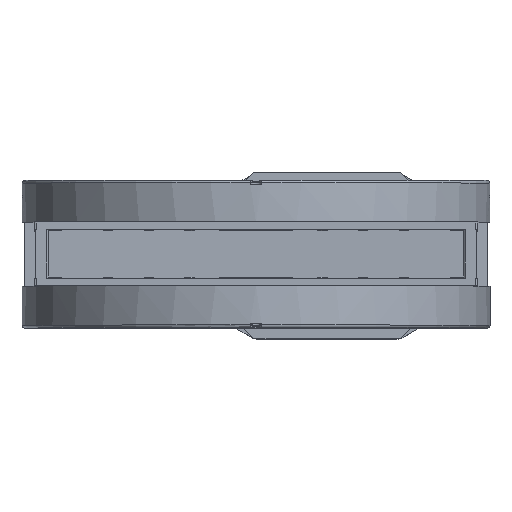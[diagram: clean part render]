
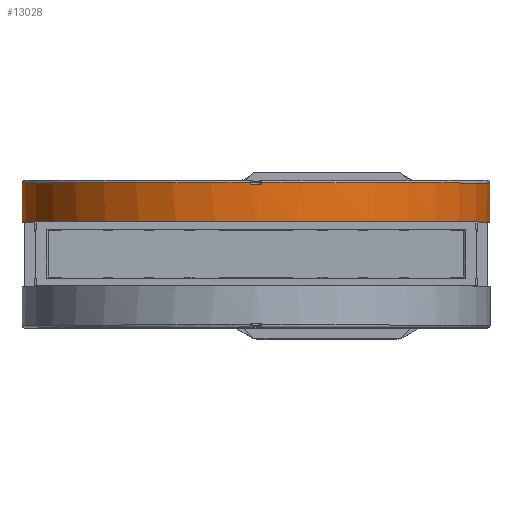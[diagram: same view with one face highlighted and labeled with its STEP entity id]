
A CAD part, top view. The second image highlights one B-rep face of the part: STEP entity #13028.
In plain terms, the highlighted cylindrical face has radius 126.6 mm (diameter 253.2 mm), a full revolution.
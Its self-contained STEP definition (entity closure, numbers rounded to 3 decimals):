
#5848=LINE('',#47086,#8254);
#5849=LINE('',#47091,#8255);
#5850=LINE('',#47095,#8256);
#5851=LINE('',#47099,#8257);
#8254=VECTOR('',#36871,1.);
#8255=VECTOR('',#36874,1.);
#8256=VECTOR('',#36877,1.);
#8257=VECTOR('',#36880,1.);
#9873=ELLIPSE('',#32602,223.466,126.6);
#9874=ELLIPSE('',#32603,223.466,126.6);
#9875=ELLIPSE('',#32610,223.466,126.6);
#9876=ELLIPSE('',#32611,223.466,126.6);
#13028=ADVANCED_FACE('BCT_REF_61925',(#14757,#14758,#14759,#14760),#13953,
 .T.);
#13953=CYLINDRICAL_SURFACE('',#32613,126.6);
#14757=FACE_BOUND('',#16295,.T.);
#14758=FACE_BOUND('',#16296,.T.);
#14759=FACE_BOUND('',#16297,.T.);
#14760=FACE_BOUND('',#16298,.T.);
#16295=EDGE_LOOP('',(#20443,#20444,#20445));
#16296=EDGE_LOOP('',(#20446,#20447,#20448,#20449,#20450,#20451,#20452,#20453));
#16297=EDGE_LOOP('',(#20454));
#16298=EDGE_LOOP('',(#20455,#20456,#20457));
#20443=ORIENTED_EDGE('',*,*,#28656,.T.);
#20444=ORIENTED_EDGE('',*,*,#28657,.T.);
#20445=ORIENTED_EDGE('',*,*,#28658,.T.);
#20446=ORIENTED_EDGE('',*,*,#28659,.T.);
#20447=ORIENTED_EDGE('',*,*,#28660,.T.);
#20448=ORIENTED_EDGE('',*,*,#28661,.F.);
#20449=ORIENTED_EDGE('',*,*,#28662,.F.);
#20450=ORIENTED_EDGE('',*,*,#28663,.T.);
#20451=ORIENTED_EDGE('',*,*,#28664,.T.);
#20452=ORIENTED_EDGE('',*,*,#28665,.F.);
#20453=ORIENTED_EDGE('',*,*,#28666,.T.);
#20454=ORIENTED_EDGE('',*,*,#28667,.T.);
#20455=ORIENTED_EDGE('',*,*,#28668,.F.);
#20456=ORIENTED_EDGE('',*,*,#28669,.F.);
#20457=ORIENTED_EDGE('',*,*,#28670,.F.);
#25622=VERTEX_POINT('',#47081);
#25623=VERTEX_POINT('',#47082);
#25624=VERTEX_POINT('',#47084);
#25625=VERTEX_POINT('',#47087);
#25626=VERTEX_POINT('',#47088);
#25627=VERTEX_POINT('',#47090);
#25628=VERTEX_POINT('',#47092);
#25629=VERTEX_POINT('',#47094);
#25630=VERTEX_POINT('',#47096);
#25631=VERTEX_POINT('',#47098);
#25632=VERTEX_POINT('',#47100);
#25633=VERTEX_POINT('',#47103);
#25634=VERTEX_POINT('',#47105);
#25635=VERTEX_POINT('',#47106);
#25636=VERTEX_POINT('',#47108);
#28656=EDGE_CURVE('',#25622,#25623,#9873,.T.);
#28657=EDGE_CURVE('',#25623,#25624,#9874,.T.);
#28658=EDGE_CURVE('',#25624,#25622,#31133,.T.);
#28659=EDGE_CURVE('',#25625,#25626,#5848,.T.);
#28660=EDGE_CURVE('',#25626,#25627,#31134,.T.);
#28661=EDGE_CURVE('',#25628,#25627,#5849,.T.);
#28662=EDGE_CURVE('',#25629,#25628,#31135,.T.);
#28663=EDGE_CURVE('',#25629,#25630,#5850,.T.);
#28664=EDGE_CURVE('',#25630,#25631,#31136,.T.);
#28665=EDGE_CURVE('',#25632,#25631,#5851,.T.);
#28666=EDGE_CURVE('',#25632,#25625,#31137,.T.);
#28667=EDGE_CURVE('',#25633,#25633,#31138,.T.);
#28668=EDGE_CURVE('',#25634,#25635,#9875,.T.);
#28669=EDGE_CURVE('',#25636,#25634,#9876,.T.);
#28670=EDGE_CURVE('',#25635,#25636,#31139,.T.);
#31133=CIRCLE('',#32604,126.6);
#31134=CIRCLE('',#32605,126.6);
#31135=CIRCLE('',#32606,126.6);
#31136=CIRCLE('',#32607,126.6);
#31137=CIRCLE('',#32608,126.6);
#31138=CIRCLE('',#32609,126.6);
#31139=CIRCLE('',#32612,126.6);
#32602=AXIS2_PLACEMENT_3D('',#47080,#36865,#36866);
#32603=AXIS2_PLACEMENT_3D('',#47083,#36867,#36868);
#32604=AXIS2_PLACEMENT_3D('',#47085,#36869,#36870);
#32605=AXIS2_PLACEMENT_3D('',#47089,#36872,#36873);
#32606=AXIS2_PLACEMENT_3D('',#47093,#36875,#36876);
#32607=AXIS2_PLACEMENT_3D('',#47097,#36878,#36879);
#32608=AXIS2_PLACEMENT_3D('',#47101,#36881,#36882);
#32609=AXIS2_PLACEMENT_3D('',#47102,#36883,#36884);
#32610=AXIS2_PLACEMENT_3D('',#47104,#36885,#36886);
#32611=AXIS2_PLACEMENT_3D('',#47107,#36887,#36888);
#32612=AXIS2_PLACEMENT_3D('',#47109,#36889,#36890);
#32613=AXIS2_PLACEMENT_3D('',#47110,#36891,#36892);
#36865=DIRECTION('',(0.,-0.567,0.824));
#36866=DIRECTION('',(0.,0.824,0.567));
#36867=DIRECTION('',(0.,-0.567,-0.824));
#36868=DIRECTION('',(0.,0.824,-0.567));
#36869=DIRECTION('',(0.,1.,0.));
#36870=DIRECTION('',(0.,0.,1.));
#36871=DIRECTION('',(0.,1.,0.));
#36872=DIRECTION('',(0.,-1.,0.));
#36873=DIRECTION('',(0.,0.,1.));
#36874=DIRECTION('',(0.,1.,0.));
#36875=DIRECTION('',(0.,1.,0.));
#36876=DIRECTION('',(0.,0.,-1.));
#36877=DIRECTION('',(0.,1.,0.));
#36878=DIRECTION('',(0.,-1.,0.));
#36879=DIRECTION('',(0.,0.,1.));
#36880=DIRECTION('',(0.,1.,0.));
#36881=DIRECTION('',(0.,-1.,0.));
#36882=DIRECTION('',(0.,0.,-1.));
#36883=DIRECTION('',(0.,1.,0.));
#36884=DIRECTION('',(0.,0.,-1.));
#36885=DIRECTION('',(0.,0.567,0.824));
#36886=DIRECTION('',(0.,0.824,-0.567));
#36887=DIRECTION('',(0.,0.567,-0.824));
#36888=DIRECTION('',(0.,0.824,0.567));
#36889=DIRECTION('',(0.,-1.,0.));
#36890=DIRECTION('',(0.,0.,-1.));
#36891=DIRECTION('',(0.,1.,0.));
#36892=DIRECTION('',(0.,0.,-1.));
#47080=CARTESIAN_POINT('',(0.,27.95,412.));
#47081=CARTESIAN_POINT('',(-126.57,31.95,414.75));
#47082=CARTESIAN_POINT('',(-126.6,27.95,412.));
#47083=CARTESIAN_POINT('',(0.,27.95,412.));
#47084=CARTESIAN_POINT('',(-126.57,31.95,409.25));
#47085=CARTESIAN_POINT('',(0.,31.95,412.));
#47086=CARTESIAN_POINT('',(3.,37.45,285.436));
#47087=CARTESIAN_POINT('',(3.,37.45,285.436));
#47088=CARTESIAN_POINT('',(3.,38.45,285.436));
#47089=CARTESIAN_POINT('',(0.,38.45,412.));
#47090=CARTESIAN_POINT('',(3.,38.45,538.564));
#47091=CARTESIAN_POINT('',(3.,37.45,538.564));
#47092=CARTESIAN_POINT('',(3.,37.45,538.564));
#47093=CARTESIAN_POINT('',(0.,37.45,412.));
#47094=CARTESIAN_POINT('',(-3.,37.45,538.564));
#47095=CARTESIAN_POINT('',(-3.,37.45,538.564));
#47096=CARTESIAN_POINT('',(-3.,38.45,538.564));
#47097=CARTESIAN_POINT('',(0.,38.45,412.));
#47098=CARTESIAN_POINT('',(-3.,38.45,285.436));
#47099=CARTESIAN_POINT('',(-3.,37.45,285.436));
#47100=CARTESIAN_POINT('',(-3.,37.45,285.436));
#47101=CARTESIAN_POINT('',(0.,37.45,412.));
#47102=CARTESIAN_POINT('',(0.,17.25,412.));
#47103=CARTESIAN_POINT('',(0.,17.25,285.4));
#47104=CARTESIAN_POINT('',(0.,27.95,412.));
#47105=CARTESIAN_POINT('',(126.6,27.95,412.));
#47106=CARTESIAN_POINT('',(126.57,31.95,409.25));
#47107=CARTESIAN_POINT('',(0.,27.95,412.));
#47108=CARTESIAN_POINT('',(126.57,31.95,414.75));
#47109=CARTESIAN_POINT('',(0.,31.95,412.));
#47110=CARTESIAN_POINT('',(0.,38.65,412.));
